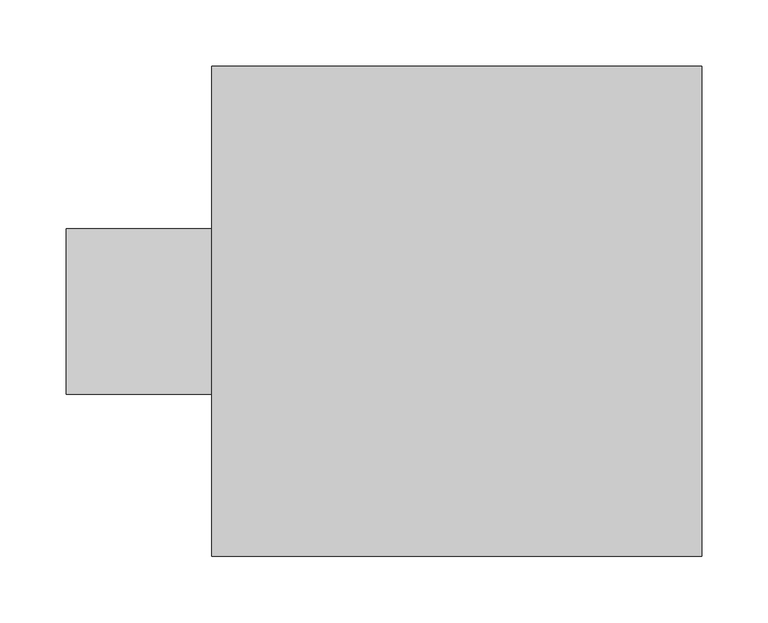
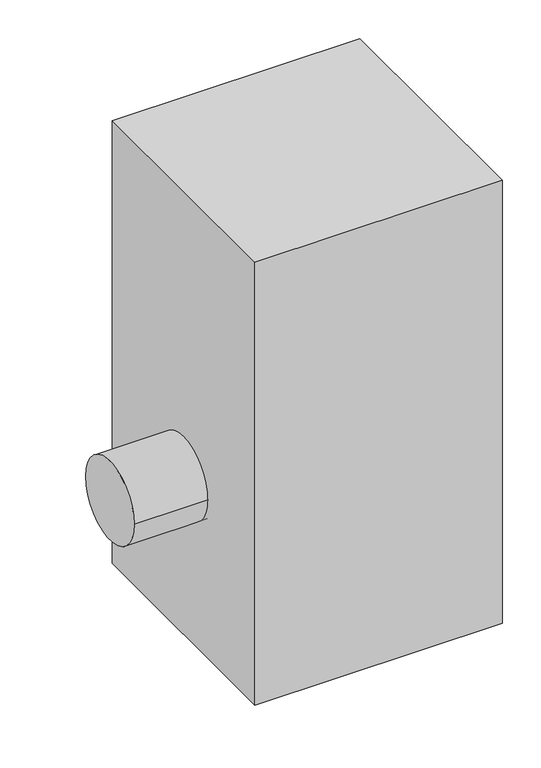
"""IFC4 building model written with IfcOpenShell, lengths in millimetres: valve geometry, NLRS_74_PF_QS relief chamber for small system_Wavin : Wavin Ontlastput 125."""

import ifcopenshell
import ifcopenshell.guid

model = None  # the IFC model being written
_history = None  # IfcOwnerHistory: only IFC2X3 demands one
_inside = {}  # id of a spatial element -> (the spatial element, [elements in it])
_under = {}  # id of a project, library or spatial element -> (it, [spatial elements below it])
_declared = {}  # id of a project -> (the project, [libraries it declares])
_typed = {}  # id of a type object -> (the type object, [elements of that type])
_made_of = {}  # id of a material, layer set ... -> (it, [elements and type objects made of it])


def new_model(schema):
    """Start an empty IFC model of exactly this schema.

    Asked for "IFC4X3", IfcOpenShell would pick the latest addendum, in which some entities
    have other attributes; the version numbers below select the first issue.
    IFC2X3 requires an IfcOwnerHistory on every rooted entity: one is made here for all.
    """
    global model, _history
    if schema == "IFC4X3":
        model = ifcopenshell.file(schema_version=(4, 3, 0, 0))
    else:
        model = ifcopenshell.file(schema=schema)
    _inside.clear()
    _under.clear()
    _declared.clear()
    _typed.clear()
    _made_of.clear()
    _history = None
    if model.schema == "IFC2X3":
        org = make("IfcOrganization", Name="unknown")
        user = make(
            "IfcPersonAndOrganization",
            ThePerson=make("IfcPerson", FamilyName="unknown"),
            TheOrganization=org,
        )
        app = make(
            "IfcApplication",
            ApplicationDeveloper=org,
            Version="unknown",
            ApplicationFullName="unknown",
            ApplicationIdentifier="unknown",
        )
        _history = make(
            "IfcOwnerHistory",
            OwningUser=user,
            OwningApplication=app,
            ChangeAction="ADDED",
            CreationDate=0,
        )
    return model


def make(cls, **values):
    """One entity of the class cls with the attributes given. An attribute that is None is left unset."""
    return model.create_entity(
        cls, **{name: value for name, value in values.items() if value is not None}
    )


def rooted(cls, **values):
    """An entity with a GlobalId (a new one), such as an element, a storey or a relation."""
    return make(cls, GlobalId=ifcopenshell.guid.new(), OwnerHistory=_history, **values)


def si_unit(unit_type, name, prefix=None):
    """IfcSIUnit, for example si_unit("LENGTHUNIT", "METRE", prefix="MILLI")."""
    return make("IfcSIUnit", UnitType=unit_type, Prefix=prefix, Name=name)


def assignment(units):
    """IfcUnitAssignment: the units of a project."""
    return None if units is None else make("IfcUnitAssignment", Units=units)


def point(xyz):
    """IfcCartesianPoint."""
    return None if xyz is None else make("IfcCartesianPoint", Coordinates=xyz)


def direction(xyz):
    """IfcDirection."""
    return None if xyz is None else make("IfcDirection", DirectionRatios=xyz)


def frame(location, z_axis=None, x_axis=None):
    """IfcAxis2Placement3D, a coordinate frame: its origin and axes. An axis left out is left unset."""
    return make(
        "IfcAxis2Placement3D",
        Location=point(location),
        Axis=direction(z_axis),
        RefDirection=direction(x_axis),
    )


def frame_2d(location, x_axis=None):
    """IfcAxis2Placement2D, a coordinate frame in the plane: its origin and x axis."""
    return make(
        "IfcAxis2Placement2D", Location=point(location), RefDirection=direction(x_axis)
    )


def origin():
    """The frame at (0, 0, 0) with its axes left unset."""
    return frame((0.0, 0.0, 0.0))


def origin_2d():
    """The frame at (0, 0) in the plane with its x axis left unset."""
    return frame_2d((0.0, 0.0))


def place(relative_to, where):
    """IfcLocalPlacement: puts the frame where relative to a parent placement (None: the world)."""
    return make(
        "IfcLocalPlacement", PlacementRelTo=relative_to, RelativePlacement=where
    )


def context(
    kind, dimensions, precision=None, world=None, true_north=None, identifier=None
):
    """IfcGeometricRepresentationContext, for example the 3D "Model" context."""
    return make(
        "IfcGeometricRepresentationContext",
        ContextIdentifier=identifier,
        ContextType=kind,
        CoordinateSpaceDimension=dimensions,
        Precision=precision,
        WorldCoordinateSystem=world,
        TrueNorth=true_north,
    )


def project(units=None, contexts=None):
    """IfcProject with its units and contexts."""
    return rooted(
        "IfcProject",
        Name="project",
        RepresentationContexts=contexts,
        UnitsInContext=assignment(units),
    )


def spatial(cls, under=None, at=None, **own):
    """A site, building, storey or space (cls), placed at a placement, below another one or the project."""
    s = rooted(cls, ObjectPlacement=at, **own)
    if under is not None:
        _under.setdefault(under.id(), (under, []))[1].append(s)
    return s


def polyline(points):
    """IfcPolyline through the points."""
    return make("IfcPolyline", Points=[point(p) for p in points])


def circle_curve(where, radius):
    """IfcCircle in the frame where."""
    return make("IfcCircle", Position=where, Radius=radius)


def trimmed(basis, trim1, trim2, sense, master):
    """IfcTrimmedCurve: the piece of a basis curve between two trims."""
    return make(
        "IfcTrimmedCurve",
        BasisCurve=basis,
        Trim1=trim1,
        Trim2=trim2,
        SenseAgreement=sense,
        MasterRepresentation=master,
    )


def segment(curve, same_sense, transition):
    """IfcCompositeCurveSegment."""
    return make(
        "IfcCompositeCurveSegment",
        Transition=transition,
        SameSense=same_sense,
        ParentCurve=curve,
    )


def composite_curve(segments, self_intersect=None):
    """IfcCompositeCurve: segments joined end to end."""
    return make("IfcCompositeCurve", Segments=segments, SelfIntersect=self_intersect)


def outline(outer, holes=None, kind="AREA"):
    """IfcArbitraryClosedProfileDef: a profile drawn as a closed curve; with holes, ...WithVoids."""
    if holes is None:
        return make("IfcArbitraryClosedProfileDef", ProfileType=kind, OuterCurve=outer)
    return make(
        "IfcArbitraryProfileDefWithVoids",
        ProfileType=kind,
        OuterCurve=outer,
        InnerCurves=holes,
    )


def extrude(swept, where, along, depth):
    """IfcExtrudedAreaSolid: the profile swept, set in the frame where, extruded along a direction by depth."""
    return make(
        "IfcExtrudedAreaSolid",
        SweptArea=swept,
        Position=where,
        ExtrudedDirection=direction(along),
        Depth=depth,
    )


def shape(context_of_items, identifier, shape_type, items):
    """IfcShapeRepresentation: the items that make up one representation, for example the "Body"."""
    return make(
        "IfcShapeRepresentation",
        ContextOfItems=context_of_items,
        RepresentationIdentifier=identifier,
        RepresentationType=shape_type,
        Items=items,
    )


def source(mapping_origin, context_of_items, identifier, shape_type, items):
    """IfcRepresentationMap: a shape defined once, which mapped items show again and again."""
    return make(
        "IfcRepresentationMap",
        MappingOrigin=mapping_origin,
        MappedRepresentation=shape(context_of_items, identifier, shape_type, items),
    )


def transform(
    local_origin,
    x_axis=None,
    y_axis=None,
    z_axis=None,
    scale=None,
    scale2=None,
    scale3=None,
    uniform=True,
):
    """IfcCartesianTransformationOperator3D, or its non-uniform kind. x_axis, y_axis, z_axis: its Axis1, 2, 3."""
    if uniform:
        return make(
            "IfcCartesianTransformationOperator3D",
            Axis1=direction(x_axis),
            Axis2=direction(y_axis),
            LocalOrigin=point(local_origin),
            Scale=scale,
            Axis3=direction(z_axis),
        )
    return make(
        "IfcCartesianTransformationOperator3DnonUniform",
        Axis1=direction(x_axis),
        Axis2=direction(y_axis),
        LocalOrigin=point(local_origin),
        Scale=scale,
        Axis3=direction(z_axis),
        Scale2=scale2,
        Scale3=scale3,
    )


def mapped(mapping_source, mapping_target):
    """IfcMappedItem: shows the shape of a source again, moved by a transform."""
    return make(
        "IfcMappedItem", MappingSource=mapping_source, MappingTarget=mapping_target
    )


def made_of(thing, what):
    """Note that an element or type object is made of a material, layer set ...; save() writes the relation."""
    if what is not None:
        _made_of.setdefault(what.id(), (what, []))[1].append(thing)
    return thing


def element(
    cls,
    number,
    at=None,
    inside=None,
    cuts=None,
    type_object=None,
    material=None,
    context=None,
    identifier="Body",
    shape_type=None,
    held_by="IfcProductDefinitionShape",
    body=None,
    shapes=None,
    **own,
):
    """One element of the class cls, such as IfcWall. Its Tag is "e" and its number.

    at: its placement. inside: the storey or other place that contains it. cuts: it is an
    opening in that element (IfcRelVoidsElement). A single representation is given by context,
    identifier, shape_type and body (its items); several are given by shapes. held_by: the class
    of the entity that holds the representations. save() writes the other relations.
    """
    e = rooted(cls, Tag="e%d" % number, ObjectPlacement=at, **own)
    if body is not None:
        shapes = [shape(context, identifier, shape_type, body)]
    if shapes is not None:
        e.Representation = make(held_by, Representations=shapes)
    if inside is not None:
        _inside.setdefault(inside.id(), (inside, []))[1].append(e)
    if cuts is not None:
        rooted(
            "IfcRelVoidsElement", RelatingBuildingElement=cuts, RelatedOpeningElement=e
        )
    if type_object is not None:
        _typed.setdefault(type_object.id(), (type_object, []))[1].append(e)
    return made_of(e, material)


def aggregate(whole, parts):
    """IfcRelAggregates: a whole, such as a stair, and the parts it consists of."""
    return rooted("IfcRelAggregates", RelatingObject=whole, RelatedObjects=parts)


def save(model, path):
    """Write the relations noted so far, then the file.

    IfcRelAggregates (storeys below a building ...), IfcRelContainedInSpatialStructure (elements
    in a storey), IfcRelDefinesByType, IfcRelAssociatesMaterial and IfcRelDeclares: one each for
    every whole, place, type object, material and project.
    """
    for whole, parts in _under.values():
        aggregate(whole, parts)
    for where, things in _inside.values():
        rooted(
            "IfcRelContainedInSpatialStructure",
            RelatedElements=things,
            RelatingStructure=where,
        )
    for kind, things in _typed.values():
        rooted("IfcRelDefinesByType", RelatedObjects=things, RelatingType=kind)
    for what, things in _made_of.values():
        rooted("IfcRelAssociatesMaterial", RelatedObjects=things, RelatingMaterial=what)
    for by, libraries in _declared.values():
        rooted("IfcRelDeclares", RelatingContext=by, RelatedDefinitions=libraries)
    model.write(path)


def valve_17ba4cc8(model_context):
    return source(origin(), model_context, "Body", "SweptSolid", [
        extrude(outline(composite_curve([segment(trimmed(circle_curve(origin_2d(), 62.5), [point((-62.5, 0.0))], [point((62.5, 0.0))], False, "CARTESIAN"), True, "CONTINUOUS"), segment(trimmed(circle_curve(origin_2d(), 62.5), [point((62.5, 0.0))], [point((-62.5, 0.0))], False, "CARTESIAN"), True, "CONTINUOUS")], self_intersect=False)), frame((-295.0, 0.0, 0.0), z_axis=(1.0, 0.0, 0.0), x_axis=(0.0, 1.0, 0.0)), (0.0, 0.0, 1.0), 295.0),
        extrude(outline(polyline([(185.0, 185.0), (185.0, -185.0), (-185.0, -185.0), (-185.0, 185.0), (185.0, 185.0)])), frame((0.0, 0.0, -250.0), z_axis=(0.0, 0.0, 1.0), x_axis=(1.0, 0.0, 0.0)), (0.0, 0.0, 1.0), 700.0),
    ])


if __name__ == "__main__":
    model = new_model("IFC4")
    model_context = context("Model", 3, world=origin())
    ifc_project = project(units=[si_unit("LENGTHUNIT", "METRE", prefix="MILLI")], contexts=[model_context])
    site = spatial("IfcSite", under=ifc_project)
    building = spatial("IfcBuilding", under=site)
    placement = place(None, origin())
    valve_shape = valve_17ba4cc8(model_context)
    element("IfcValve", 1, ObjectType="NLRS_74_PF_QS relief chamber for small system_Wavin : Wavin Ontlastput 125", at=placement, inside=building, context=model_context, shape_type="MappedRepresentation", body=[
        mapped(valve_shape, transform((0.0, 0.0, 0.0), x_axis=(1.0, 0.0, 0.0), y_axis=(0.0, 1.0, 0.0), z_axis=(0.0, 0.0, 1.0))),
    ])
    save(model, "model.ifc")
